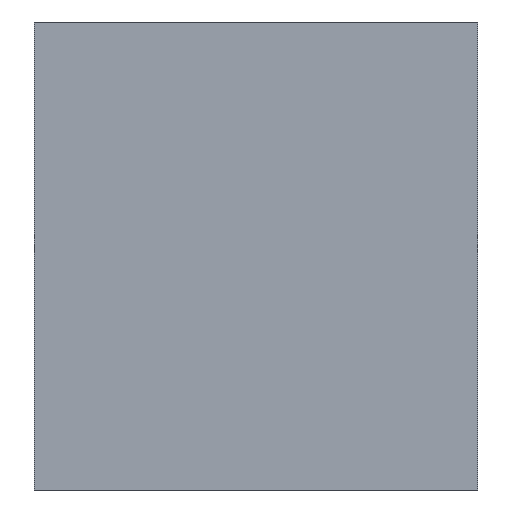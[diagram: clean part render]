
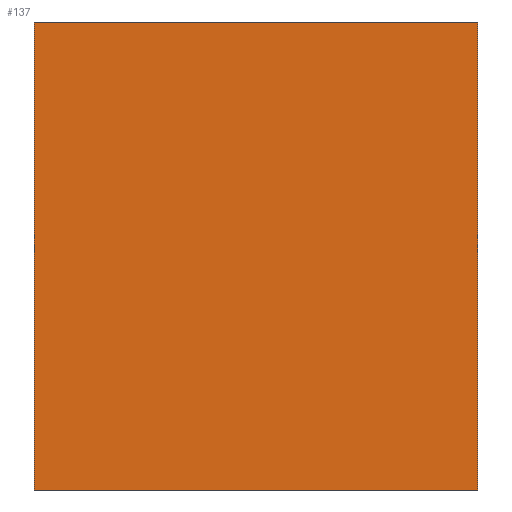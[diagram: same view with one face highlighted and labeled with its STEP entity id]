
A CAD part, left-side view. The second image highlights one B-rep face of the part: STEP entity #137.
In plain terms, the highlighted planar face has unit normal (-1, 0, 0).
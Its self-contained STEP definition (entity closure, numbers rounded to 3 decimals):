
#44 = PLANE('',#45);
#45 = AXIS2_PLACEMENT_3D('',#46,#47,#48);
#46 = CARTESIAN_POINT('',(7.,57.,-5.));
#47 = DIRECTION('',(-0.,1.,0.));
#48 = DIRECTION('',(0.,0.,-1.));
#72 = PLANE('',#73);
#73 = AXIS2_PLACEMENT_3D('',#74,#75,#76);
#74 = CARTESIAN_POINT('',(7.,57.,-5.));
#75 = DIRECTION('',(0.,0.,1.));
#76 = DIRECTION('',(1.,0.,0.));
#100 = PLANE('',#101);
#101 = AXIS2_PLACEMENT_3D('',#102,#103,#104);
#102 = CARTESIAN_POINT('',(7.,75.,-5.));
#103 = DIRECTION('',(-0.,1.,0.));
#104 = DIRECTION('',(0.,0.,-1.));
#126 = PLANE('',#127);
#127 = AXIS2_PLACEMENT_3D('',#128,#129,#130);
#128 = CARTESIAN_POINT('',(7.,57.,14.));
#129 = DIRECTION('',(0.,0.,1.));
#130 = DIRECTION('',(1.,0.,0.));
#137 = ADVANCED_FACE('',(#138),#152,.T.);
#138 = FACE_BOUND('',#139,.F.);
#139 = EDGE_LOOP('',(#140,#170,#193,#216));
#140 = ORIENTED_EDGE('',*,*,#141,.F.);
#141 = EDGE_CURVE('',#142,#144,#146,.T.);
#142 = VERTEX_POINT('',#143);
#143 = CARTESIAN_POINT('',(-7.,57.,-5.));
#144 = VERTEX_POINT('',#145);
#145 = CARTESIAN_POINT('',(-7.,57.,14.));
#146 = SURFACE_CURVE('',#147,(#151,#163),.PCURVE_S1.);
#147 = LINE('',#148,#149);
#148 = CARTESIAN_POINT('',(-7.,57.,-5.));
#149 = VECTOR('',#150,1.);
#150 = DIRECTION('',(0.,0.,1.));
#151 = PCURVE('',#152,#157);
#152 = PLANE('',#153);
#153 = AXIS2_PLACEMENT_3D('',#154,#155,#156);
#154 = CARTESIAN_POINT('',(-7.,57.,-5.));
#155 = DIRECTION('',(-1.,-0.,0.));
#156 = DIRECTION('',(0.,0.,-1.));
#157 = DEFINITIONAL_REPRESENTATION('',(#158),#162);
#158 = LINE('',#159,#160);
#159 = CARTESIAN_POINT('',(-0.,-0.));
#160 = VECTOR('',#161,1.);
#161 = DIRECTION('',(-1.,-0.));
#162 = ( GEOMETRIC_REPRESENTATION_CONTEXT(2) 
PARAMETRIC_REPRESENTATION_CONTEXT() REPRESENTATION_CONTEXT('2D SPACE',''
  ) );
#163 = PCURVE('',#44,#164);
#164 = DEFINITIONAL_REPRESENTATION('',(#165),#169);
#165 = LINE('',#166,#167);
#166 = CARTESIAN_POINT('',(-0.,14.));
#167 = VECTOR('',#168,1.);
#168 = DIRECTION('',(-1.,0.));
#169 = ( GEOMETRIC_REPRESENTATION_CONTEXT(2) 
PARAMETRIC_REPRESENTATION_CONTEXT() REPRESENTATION_CONTEXT('2D SPACE',''
  ) );
#170 = ORIENTED_EDGE('',*,*,#171,.T.);
#171 = EDGE_CURVE('',#142,#172,#174,.T.);
#172 = VERTEX_POINT('',#173);
#173 = CARTESIAN_POINT('',(-7.,75.,-5.));
#174 = SURFACE_CURVE('',#175,(#179,#186),.PCURVE_S1.);
#175 = LINE('',#176,#177);
#176 = CARTESIAN_POINT('',(-7.,57.,-5.));
#177 = VECTOR('',#178,1.);
#178 = DIRECTION('',(-0.,1.,0.));
#179 = PCURVE('',#152,#180);
#180 = DEFINITIONAL_REPRESENTATION('',(#181),#185);
#181 = LINE('',#182,#183);
#182 = CARTESIAN_POINT('',(-0.,-0.));
#183 = VECTOR('',#184,1.);
#184 = DIRECTION('',(-0.,-1.));
#185 = ( GEOMETRIC_REPRESENTATION_CONTEXT(2) 
PARAMETRIC_REPRESENTATION_CONTEXT() REPRESENTATION_CONTEXT('2D SPACE',''
  ) );
#186 = PCURVE('',#72,#187);
#187 = DEFINITIONAL_REPRESENTATION('',(#188),#192);
#188 = LINE('',#189,#190);
#189 = CARTESIAN_POINT('',(-14.,0.));
#190 = VECTOR('',#191,1.);
#191 = DIRECTION('',(-0.,1.));
#192 = ( GEOMETRIC_REPRESENTATION_CONTEXT(2) 
PARAMETRIC_REPRESENTATION_CONTEXT() REPRESENTATION_CONTEXT('2D SPACE',''
  ) );
#193 = ORIENTED_EDGE('',*,*,#194,.T.);
#194 = EDGE_CURVE('',#172,#195,#197,.T.);
#195 = VERTEX_POINT('',#196);
#196 = CARTESIAN_POINT('',(-7.,75.,14.));
#197 = SURFACE_CURVE('',#198,(#202,#209),.PCURVE_S1.);
#198 = LINE('',#199,#200);
#199 = CARTESIAN_POINT('',(-7.,75.,-5.));
#200 = VECTOR('',#201,1.);
#201 = DIRECTION('',(0.,0.,1.));
#202 = PCURVE('',#152,#203);
#203 = DEFINITIONAL_REPRESENTATION('',(#204),#208);
#204 = LINE('',#205,#206);
#205 = CARTESIAN_POINT('',(-0.,-18.));
#206 = VECTOR('',#207,1.);
#207 = DIRECTION('',(-1.,-0.));
#208 = ( GEOMETRIC_REPRESENTATION_CONTEXT(2) 
PARAMETRIC_REPRESENTATION_CONTEXT() REPRESENTATION_CONTEXT('2D SPACE',''
  ) );
#209 = PCURVE('',#100,#210);
#210 = DEFINITIONAL_REPRESENTATION('',(#211),#215);
#211 = LINE('',#212,#213);
#212 = CARTESIAN_POINT('',(-0.,14.));
#213 = VECTOR('',#214,1.);
#214 = DIRECTION('',(-1.,0.));
#215 = ( GEOMETRIC_REPRESENTATION_CONTEXT(2) 
PARAMETRIC_REPRESENTATION_CONTEXT() REPRESENTATION_CONTEXT('2D SPACE',''
  ) );
#216 = ORIENTED_EDGE('',*,*,#217,.F.);
#217 = EDGE_CURVE('',#144,#195,#218,.T.);
#218 = SURFACE_CURVE('',#219,(#223,#230),.PCURVE_S1.);
#219 = LINE('',#220,#221);
#220 = CARTESIAN_POINT('',(-7.,57.,14.));
#221 = VECTOR('',#222,1.);
#222 = DIRECTION('',(-0.,1.,0.));
#223 = PCURVE('',#152,#224);
#224 = DEFINITIONAL_REPRESENTATION('',(#225),#229);
#225 = LINE('',#226,#227);
#226 = CARTESIAN_POINT('',(-19.,-0.));
#227 = VECTOR('',#228,1.);
#228 = DIRECTION('',(-0.,-1.));
#229 = ( GEOMETRIC_REPRESENTATION_CONTEXT(2) 
PARAMETRIC_REPRESENTATION_CONTEXT() REPRESENTATION_CONTEXT('2D SPACE',''
  ) );
#230 = PCURVE('',#126,#231);
#231 = DEFINITIONAL_REPRESENTATION('',(#232),#236);
#232 = LINE('',#233,#234);
#233 = CARTESIAN_POINT('',(-14.,0.));
#234 = VECTOR('',#235,1.);
#235 = DIRECTION('',(-0.,1.));
#236 = ( GEOMETRIC_REPRESENTATION_CONTEXT(2) 
PARAMETRIC_REPRESENTATION_CONTEXT() REPRESENTATION_CONTEXT('2D SPACE',''
  ) );
